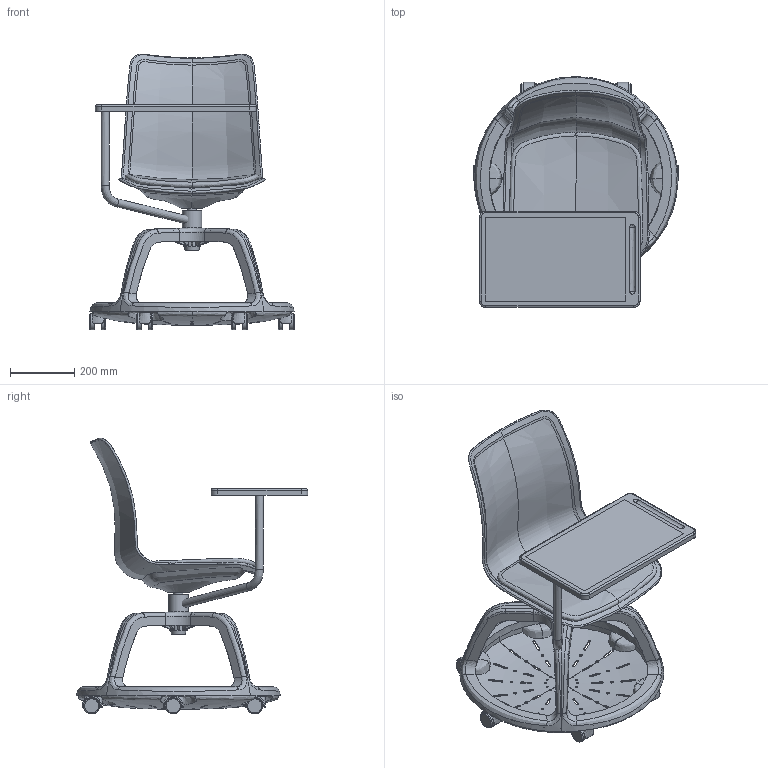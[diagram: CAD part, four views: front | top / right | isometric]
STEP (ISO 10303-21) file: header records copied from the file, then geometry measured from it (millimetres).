
FILE_DESCRIPTION(/* description */ (''),/* implementation_level */ '2;1');
FILE_NAME(/* name */ 'Campus 351',/* time_stamp */ '2019-04-23T16:21:22+02:00',/* author */ (''),/* organization */ (''),/* preprocessor_version */ 'ST-DEVELOPER v16.5',/* originating_system */ '',/* authorisation */ '');
FILE_SCHEMA (('AUTOMOTIVE_DESIGN'));
Length unit declared in the file: millimetre
Products named in the file (1): Document
Bounding box: 636 x 719.81 x 858.5 mm (x, y, z)
Volume: 7536788.6 mm3; surface area: 3134132.8 mm2
Topology: 12 solids, 90 shells, 808 faces, 2388 edges, 1636 vertices
Faces by surface type: bspline 469, plane 339
Entity records: 45787 total; most frequent: CARTESIAN_POINT 31844, ORIENTED_EDGE 3988, EDGE_CURVE 2369, B_SPLINE_CURVE_WITH_KNOTS 1798, VERTEX_POINT 1630, EDGE_LOOP 916, ADVANCED_FACE 808, FACE_OUTER_BOUND 808
